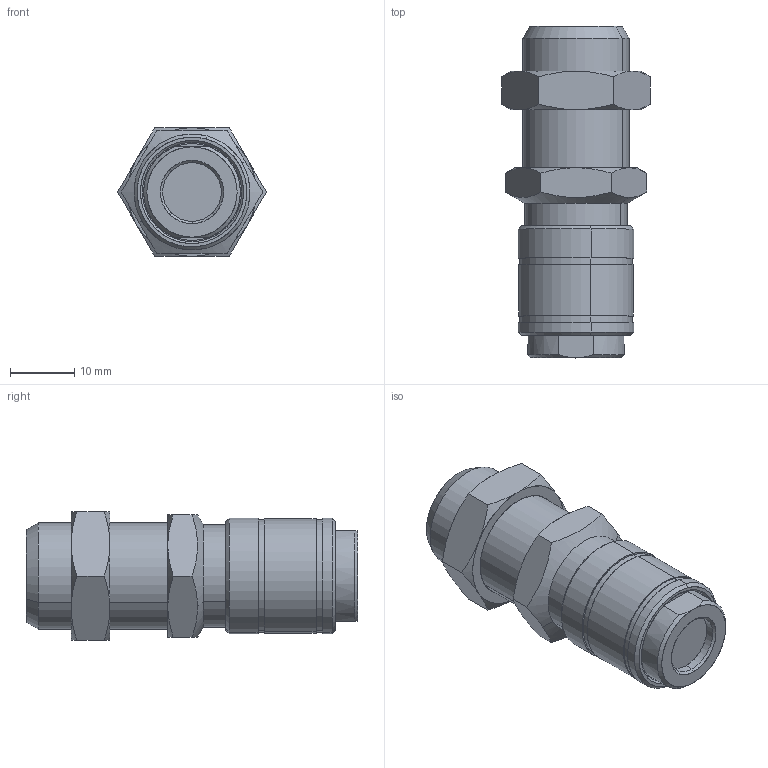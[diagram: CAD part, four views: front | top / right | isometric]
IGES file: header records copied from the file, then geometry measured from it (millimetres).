
Start section: SolidWorks IGES file using analytic representation for surfaces
Global section: file name: K:\Disegni Esecutivi\Serie 100-200\ASSIEMI\116\116_iges\0011600003A.IGS; native system: SolidWorks 2008; preprocessor: SolidWorks 2008; author: cad05; date: 090227.170439; units: millimetre
Bounding box: 23.09 x 51.5 x 20 mm (x, y, z)
Surface area: 4261.4 mm2 (no closed solid volume)
Topology: 0 solids, 0 shells, 97 faces, 1608 edges, 1608 vertices
Faces by surface type: revolution 66, bspline 31
